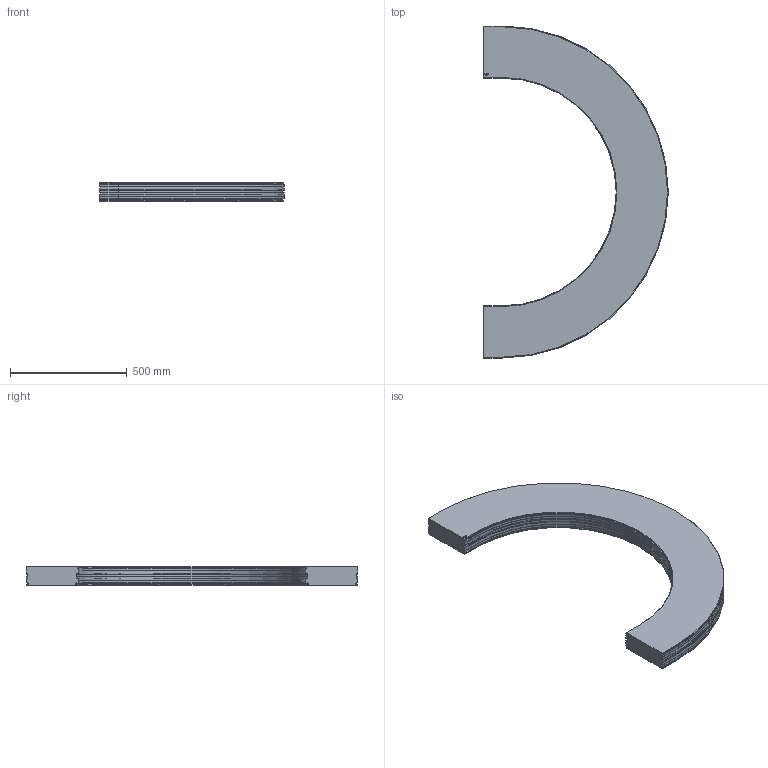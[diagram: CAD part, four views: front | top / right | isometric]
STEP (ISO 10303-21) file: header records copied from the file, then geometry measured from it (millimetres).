
FILE_DESCRIPTION((''),'2;1');
FILE_NAME('C:\Vault Klient\Projekt\Koncept konstruktion\Serie 220 Balk\220-5370.stp','2009-11-27T14:54:26',('Mathias'),(''),'Autodesk Inventor 2010','Autodesk Inventor 2010','');
FILE_SCHEMA(('AUTOMOTIVE_DESIGN { 1 0 10303 214 1 1 1 1 }'));
Length unit declared in the file: millimetre
Products named in the file (1): 220-5370
Bounding box: 792 x 1424 x 81.5 mm (x, y, z)
Volume: 36395663.7 mm3; surface area: 1511309.9 mm2
Topology: 1 solids, 1 shells, 165 faces, 442 edges, 284 vertices
Faces by surface type: plane 115, cylinder 24, bspline 14, cone 12
Entity records: 5279 total; most frequent: CARTESIAN_POINT 1134, ORIENTED_EDGE 884, DIRECTION 774, EDGE_CURVE 442, VECTOR 358, LINE 358, VERTEX_POINT 284, AXIS2_PLACEMENT_3D 208
